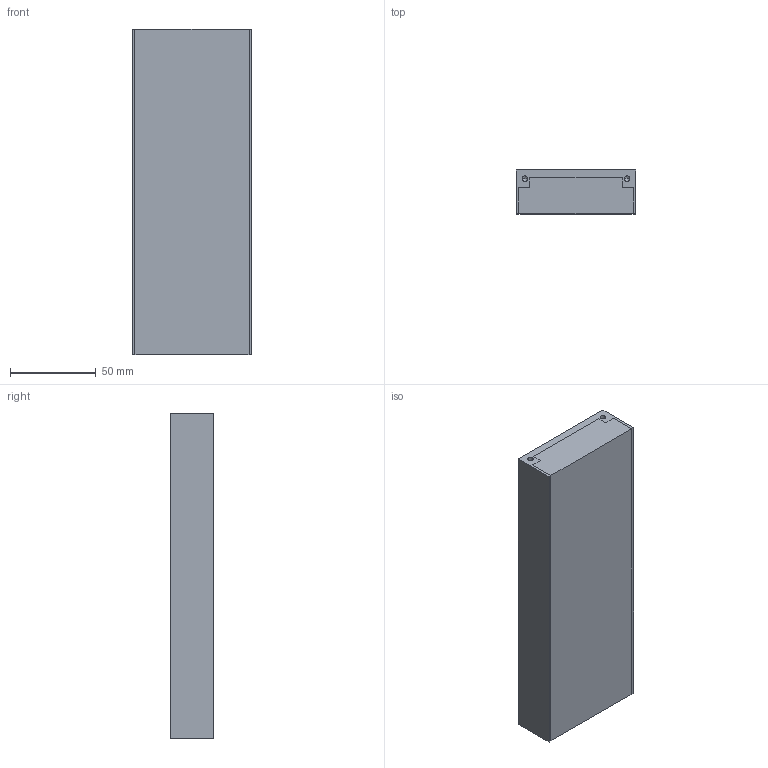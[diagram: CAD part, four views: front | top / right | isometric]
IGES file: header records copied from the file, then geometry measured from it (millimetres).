
Global section: file name: No Iges File Name specified; native system: AutoDesk Inventor R12.0; preprocessor: AutoDesk Inventor Iges Exporter R12.0; date: 20081121.152217; units: inch
Bounding box: 70 x 25.4 x 190 mm (x, y, z)
Volume: 334723.3 mm3; surface area: 42543.8 mm2
Topology: 1 solids, 1 shells, 92 faces, 222 edges, 128 vertices
Faces by surface type: bspline 48, plane 28, cylinder 16
